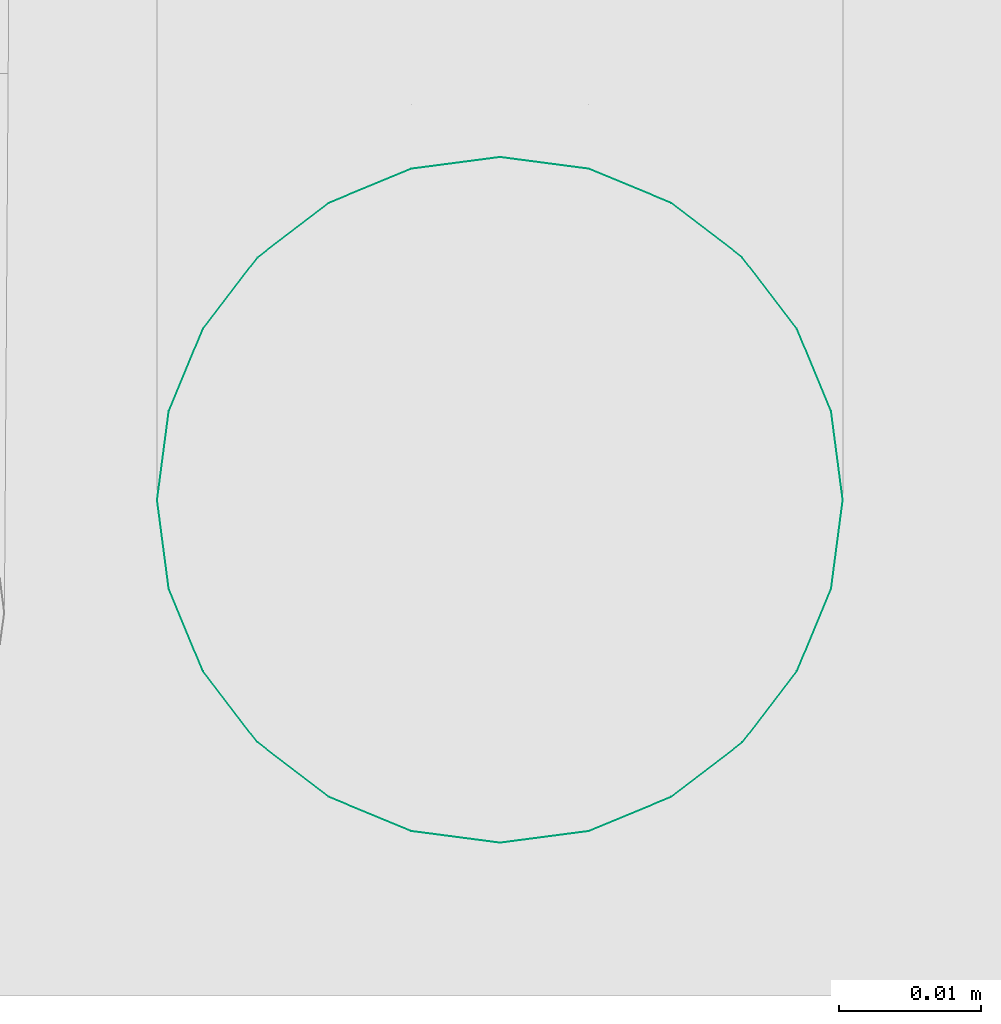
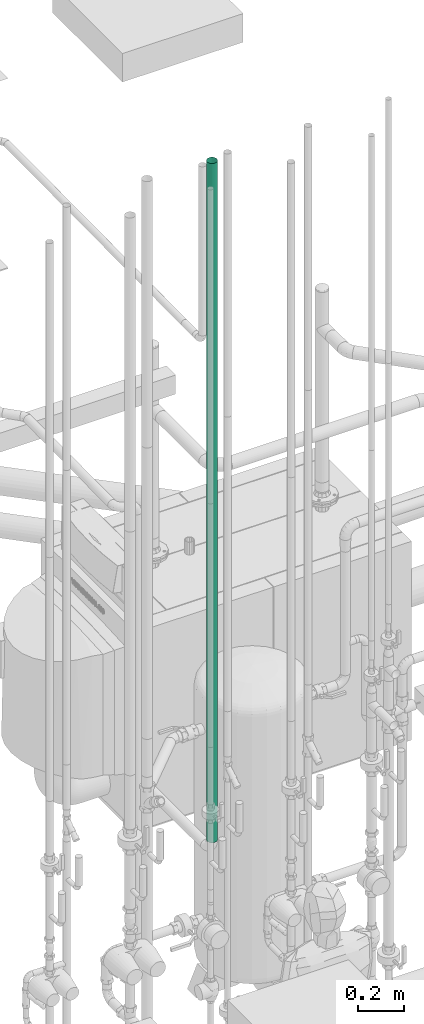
# One storey, part 209 of 374: 1 flow segment.
"""IFC2X3 building model written with IfcOpenShell, lengths in metres."""

from ifc_helpers import new_model, si_unit, direction, origin, place, context, subcontext, project, spatial, open_shell, surface_model, source, transform, mapped, element, save


model = new_model("IFC2X3")

# Units and contexts
model_context = context("Model", 3, precision=1e-05, world=origin(), true_north=direction((-0.4480736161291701, 0.8939966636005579)))
body_context = subcontext(model_context, "Body", "Model", "MODEL_VIEW")
ifc_project = project(units=[si_unit("LENGTHUNIT", "METRE"), si_unit("AREAUNIT", "SQUARE_METRE"), si_unit("VOLUMEUNIT", "CUBIC_METRE"), si_unit("PLANEANGLEUNIT", "RADIAN"), si_unit("THERMODYNAMICTEMPERATUREUNIT", "KELVIN"), si_unit("MASSUNIT", "GRAM", prefix="KILO"), si_unit("TIMEUNIT", "SECOND")], contexts=[model_context])

# Site, building, storey
site_placement = place(None, origin())
site = spatial("IfcSite", under=ifc_project, at=site_placement, Name="Site 1", CompositionType="ELEMENT")
building_placement = place(site_placement, origin())
building = spatial("IfcBuilding", under=site, at=building_placement, Name="Undefined", CompositionType="ELEMENT")
storey_placement = place(building_placement, origin())
storey = spatial("IfcBuildingStorey", under=building, at=storey_placement, Name="Rez de chauss\x8ee", CompositionType="ELEMENT", Elevation=0.0)

# Flow segment
shared_shape = source(origin(), body_context, "Body", "SurfaceModel", [
    surface_model("IfcFaceBasedSurfaceModel", [(0.0, 0.006304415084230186, 7.105427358e-15), (0.0, 0.0, 0.0), (3.56885, 0.0, 0.0), (3.56885, 0.006304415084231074, 0.0), (0.0, -0.006089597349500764, -0.0016317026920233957), (3.56885, -0.006089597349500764, -0.0016317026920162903), (0.0, -0.011549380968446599, -0.004783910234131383), (3.56885, -0.011549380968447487, -0.004783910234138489), (0.0, -0.016007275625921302, -0.009241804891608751), (3.56885, -0.01600727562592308, -0.009241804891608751), (0.0, -0.01915948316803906, -0.014701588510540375), (3.56885, -0.01915948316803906, -0.01470158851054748), (0.0, -0.020791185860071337, -0.020791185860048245), (3.56885, -0.020791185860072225, -0.02079118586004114), (0.0, -0.020791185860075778, -0.027095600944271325), (3.56885, -0.020791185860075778, -0.027095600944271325), (0.0, -0.01915948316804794, -0.03318519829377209), (3.56885, -0.01915948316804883, -0.033185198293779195), (0.0, -0.01600727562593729, -0.038644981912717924), (3.56885, -0.0160072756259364, -0.038644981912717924), (0.0, -0.011549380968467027, -0.0431028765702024), (3.56885, -0.011549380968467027, -0.0431028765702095), (0.0, -0.006089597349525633, -0.04625508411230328), (3.56885, -0.006089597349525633, -0.04625508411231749), (0.0, -2.4868995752e-14, -0.04788678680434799), (3.56885, -2.2204460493e-14, -0.0478867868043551), (0.0, 0.006304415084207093, -0.047886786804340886), (3.56885, 0.006304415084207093, -0.0478867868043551), (0.0, 0.012394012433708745, -0.046255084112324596), (3.56885, 0.012394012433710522, -0.04625508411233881), (0.0, 0.01785379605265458, -0.0431028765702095), (3.56885, 0.01785379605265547, -0.0431028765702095), (0.0, 0.022311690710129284, -0.03864498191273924), (3.56885, 0.02231169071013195, -0.03864498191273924), (0.0, 0.02546389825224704, -0.03318519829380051), (3.56885, 0.02546389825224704, -0.03318519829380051), (0.0, 0.02709560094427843, -0.027095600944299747), (3.56885, 0.02709560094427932, -0.027095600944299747), (0.0, 0.02709560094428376, -0.02079118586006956), (3.56885, 0.02709560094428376, -0.020791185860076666), (0.0, 0.025463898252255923, -0.014701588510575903), (3.56885, 0.0254638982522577, -0.014701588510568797), (0.0, 0.02231169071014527, -0.009241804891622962), (3.56885, 0.022311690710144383, -0.009241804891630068), (0.0, 0.01785379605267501, -0.004783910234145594), (3.56885, 0.017853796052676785, -0.004783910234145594), (0.0, 0.012394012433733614, -0.0016317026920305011), (3.56885, 0.012394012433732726, -0.0016317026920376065)], [open_shell([[[0, 1, 2, 3]], [[1, 4, 5, 2]], [[4, 6, 7, 5]], [[6, 8, 9, 7]], [[8, 10, 11, 9]], [[10, 12, 13, 11]], [[12, 14, 15, 13]], [[14, 16, 17, 15]], [[16, 18, 19, 17]], [[18, 20, 21, 19]], [[20, 22, 23, 21]], [[22, 24, 25, 23]], [[24, 26, 27, 25]], [[26, 28, 29, 27]], [[28, 30, 31, 29]], [[30, 32, 33, 31]], [[32, 34, 35, 33]], [[34, 36, 37, 35]], [[36, 38, 39, 37]], [[38, 40, 41, 39]], [[40, 42, 43, 41]], [[42, 44, 45, 43]], [[44, 46, 47, 45]], [[46, 0, 3, 47]]])]),
])
flow_segment_placement = place(storey_placement, origin())
element("IfcFlowSegment", 1, at=flow_segment_placement, inside=storey, Name="Tube acier d'après DIN 2448", ObjectType="Tube acier d'après DIN 2448", context=body_context, shape_type="MappedRepresentation", body=[
    mapped(shared_shape, transform((52.94400127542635, 10.889559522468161, 1.4311500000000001), x_axis=(0.0, 0.0, 1.0), y_axis=(-0.13052619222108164, 0.9914448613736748, 0.0), z_axis=(-0.9914448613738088, -0.13052619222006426, 0.0))),
])

save(model, "model.ifc")
